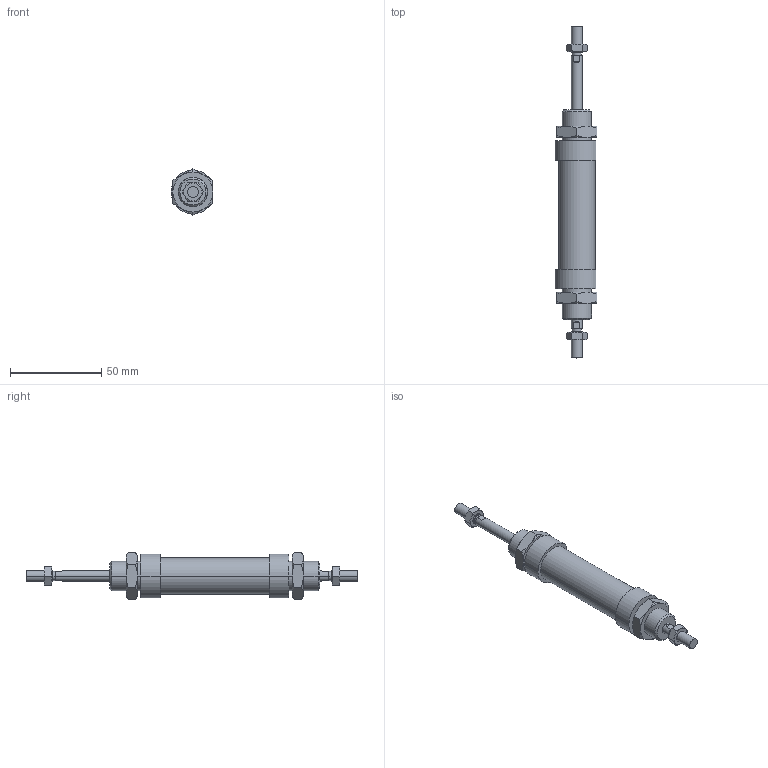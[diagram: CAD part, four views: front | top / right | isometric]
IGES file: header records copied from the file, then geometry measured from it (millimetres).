
Global section: file name: No Iges File Name specified; native system: AutoDesk Inventor R6.0; preprocessor: AutoDesk Inventor Iges Exporter R6.0; author: No Author specified; organization: No Organization specified; date: 20030403.072135; units: millimetre
Bounding box: 23 x 182 x 25.4 mm (x, y, z)
Volume: 40012.3 mm3; surface area: 16815.9 mm2
Topology: 6 solids, 6 shells, 180 faces, 388 edges, 228 vertices
Faces by surface type: cone 68, plane 56, bspline 30, cylinder 20, revolution 6
